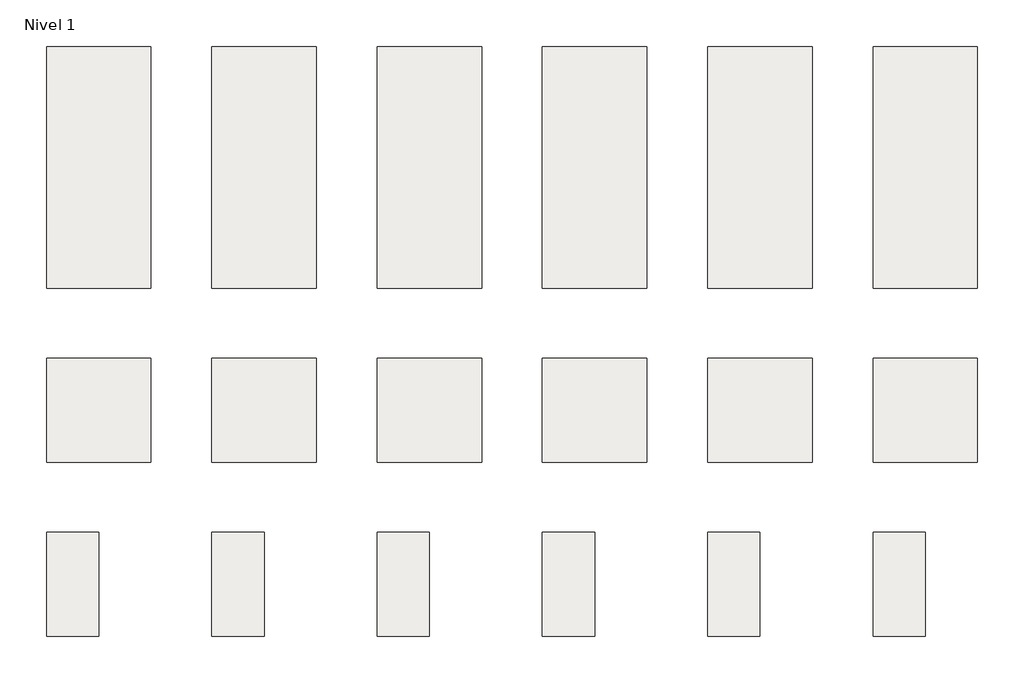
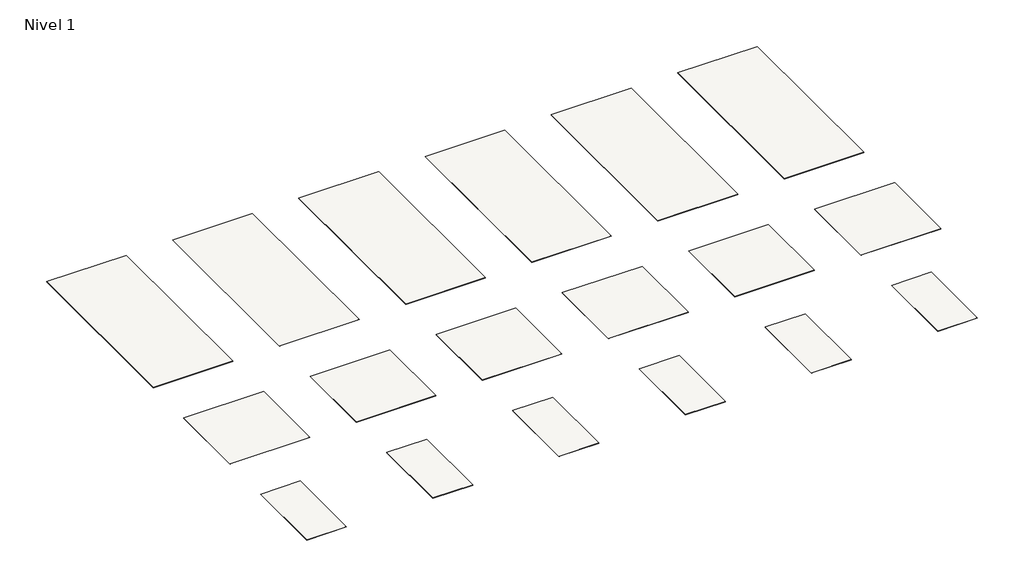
# One storey: 18 slabs.
"""IFC4 building model written with IfcOpenShell, lengths in millimetres."""

from ifc_helpers import new_model, si_unit, frame, origin, place, context, project, spatial, polyline, outline, extrude, element, save

model = new_model("IFC4")

# Units and contexts
model_context = context("Model", 3, world=origin())
ifc_project = project(units=[si_unit("LENGTHUNIT", "METRE", prefix="MILLI")], contexts=[model_context])

# Site, building, storey
site = spatial("IfcSite", under=ifc_project)
building = spatial("IfcBuilding", under=site)
storey = spatial("IfcBuildingStorey", under=building, Name="Nivel 1", Elevation=0.0)

# Slabs
placement = place(None, origin())
element("IfcSlab", 1, ObjectType="Surface Siena 120X278 5,6", at=placement, inside=storey, context=model_context, shape_type="SweptSolid", body=[
    extrude(outline(polyline([(3800.0, 2780.0), (5000.0, 2780.0), (5000.0, 0.0), (3800.0, 0.0), (3800.0, 2780.0)])), frame((0.0, 0.0, -5.6), z_axis=(0.0, 0.0, 1.0), x_axis=(1.0, 0.0, 0.0)), (0.0, 0.0, 1.0), 5.6),
])
element("IfcSlab", 2, ObjectType="Surface Cobalto 120X278 5,6", at=placement, inside=storey, context=model_context, shape_type="SweptSolid", body=[
    extrude(outline(polyline([(5700.0, 2780.0), (6900.0, 2780.0), (6900.0, 0.0), (5700.0, 0.0), (5700.0, 2780.0)])), frame((0.0, 0.0, -5.6), z_axis=(0.0, 0.0, 1.0), x_axis=(1.0, 0.0, 0.0)), (0.0, 0.0, 1.0), 5.6),
])
element("IfcSlab", 3, ObjectType="Surface Siena 120X120 5,6", at=placement, inside=storey, context=model_context, shape_type="SweptSolid", body=[
    extrude(outline(polyline([(3800.0, -800.0), (5000.0, -800.0), (5000.0, -2000.0), (3800.0, -2000.0), (3800.0, -800.0)])), frame((0.0, 0.0, -5.6), z_axis=(0.0, 0.0, 1.0), x_axis=(1.0, 0.0, 0.0)), (0.0, 0.0, 1.0), 5.6),
])
element("IfcSlab", 4, ObjectType="Surface Siena 60X120 5,6", at=placement, inside=storey, context=model_context, shape_type="SweptSolid", body=[
    extrude(outline(polyline([(3800.0, -2800.0), (4400.0, -2800.0), (4400.0, -4000.0), (3800.0, -4000.0), (3800.0, -2800.0)])), frame((0.0, 0.0, -5.6), z_axis=(0.0, 0.0, 1.0), x_axis=(1.0, 0.0, 0.0)), (0.0, 0.0, 1.0), 5.6),
])
element("IfcSlab", 5, ObjectType="Surface Cobalto 120X120 5,6", at=placement, inside=storey, context=model_context, shape_type="SweptSolid", body=[
    extrude(outline(polyline([(5700.0, -800.0), (6900.0, -800.0), (6900.0, -2000.0), (5700.0, -2000.0), (5700.0, -800.0)])), frame((0.0, 0.0, -5.6), z_axis=(0.0, 0.0, 1.0), x_axis=(1.0, 0.0, 0.0)), (0.0, 0.0, 1.0), 5.6),
])
element("IfcSlab", 6, ObjectType="Surface Cobalto 60X120 5,6", at=placement, inside=storey, context=model_context, shape_type="SweptSolid", body=[
    extrude(outline(polyline([(5700.0, -2800.0), (6300.0, -2800.0), (6300.0, -4000.0), (5700.0, -4000.0), (5700.0, -2800.0)])), frame((0.0, 0.0, -5.6), z_axis=(0.0, 0.0, 1.0), x_axis=(1.0, 0.0, 0.0)), (0.0, 0.0, 1.0), 5.6),
])
element("IfcSlab", 7, ObjectType="Surface Arena 120X120 5,6", at=placement, inside=storey, context=model_context, shape_type="SweptSolid", body=[
    extrude(outline(polyline([(9500.0, -800.0), (10700.0, -800.0), (10700.0, -2000.0), (9500.0, -2000.0), (9500.0, -800.0)])), frame((0.0, 0.0, -5.6), z_axis=(0.0, 0.0, 1.0), x_axis=(1.0, 0.0, 0.0)), (0.0, 0.0, 1.0), 5.6),
])
element("IfcSlab", 8, ObjectType="Surface Arena 120X278 5,6", at=placement, inside=storey, context=model_context, shape_type="SweptSolid", body=[
    extrude(outline(polyline([(9500.0, 2780.0), (10700.0, 2780.0), (10700.0, 0.0), (9500.0, 0.0), (9500.0, 2780.0)])), frame((0.0, 0.0, -5.6), z_axis=(0.0, 0.0, 1.0), x_axis=(1.0, 0.0, 0.0)), (0.0, 0.0, 1.0), 5.6),
])
element("IfcSlab", 9, ObjectType="Surface Arena 60X120 5,6", at=placement, inside=storey, context=model_context, shape_type="SweptSolid", body=[
    extrude(outline(polyline([(9500.0, -2800.0), (10100.0, -2800.0), (10100.0, -4000.0), (9500.0, -4000.0), (9500.0, -2800.0)])), frame((0.0, 0.0, -5.6), z_axis=(0.0, 0.0, 1.0), x_axis=(1.0, 0.0, 0.0)), (0.0, 0.0, 1.0), 5.6),
])
element("IfcSlab", 10, ObjectType="Surface Cemento 120X120 5,6", at=placement, inside=storey, context=model_context, shape_type="SweptSolid", body=[
    extrude(outline(polyline([(1900.0, -800.0), (3100.0, -800.0), (3100.0, -2000.0), (1900.0, -2000.0), (1900.0, -800.0)])), frame((0.0, 0.0, -5.6), z_axis=(0.0, 0.0, 1.0), x_axis=(1.0, 0.0, 0.0)), (0.0, 0.0, 1.0), 5.6),
])
element("IfcSlab", 11, ObjectType="Surface Cemento 120X278 5,6", at=placement, inside=storey, context=model_context, shape_type="SweptSolid", body=[
    extrude(outline(polyline([(1900.0, 2780.0), (3100.0, 2780.0), (3100.0, 0.0), (1900.0, 0.0), (1900.0, 2780.0)])), frame((0.0, 0.0, -5.6), z_axis=(0.0, 0.0, 1.0), x_axis=(1.0, 0.0, 0.0)), (0.0, 0.0, 1.0), 5.6),
])
element("IfcSlab", 12, ObjectType="Surface Cemento 60X120 5,6", at=placement, inside=storey, context=model_context, shape_type="SweptSolid", body=[
    extrude(outline(polyline([(1900.0, -2800.0), (2500.0, -2800.0), (2500.0, -4000.0), (1900.0, -4000.0), (1900.0, -2800.0)])), frame((0.0, 0.0, -5.6), z_axis=(0.0, 0.0, 1.0), x_axis=(1.0, 0.0, 0.0)), (0.0, 0.0, 1.0), 5.6),
])
element("IfcSlab", 13, ObjectType="Surface Marfil 120X120 5,6", at=placement, inside=storey, context=model_context, shape_type="SweptSolid", body=[
    extrude(outline(polyline([(0.0, -800.0), (1200.0, -800.0), (1200.0, -2000.0), (0.0, -2000.0), (0.0, -800.0)])), frame((0.0, 0.0, -5.6), z_axis=(0.0, 0.0, 1.0), x_axis=(1.0, 0.0, 0.0)), (0.0, 0.0, 1.0), 5.6),
])
element("IfcSlab", 14, ObjectType="Surface Marfil 120X278 5,6", at=placement, inside=storey, context=model_context, shape_type="SweptSolid", body=[
    extrude(outline(polyline([(0.0, 2780.0), (1200.0, 2780.0), (1200.0, 0.0), (0.0, 0.0), (0.0, 2780.0)])), frame((0.0, 0.0, -5.6), z_axis=(0.0, 0.0, 1.0), x_axis=(1.0, 0.0, 0.0)), (0.0, 0.0, 1.0), 5.6),
])
element("IfcSlab", 15, ObjectType="Surface Marfil 60X120 5,6", at=placement, inside=storey, context=model_context, shape_type="SweptSolid", body=[
    extrude(outline(polyline([(0.0, -2800.0), (600.0, -2800.0), (600.0, -4000.0), (0.0, -4000.0), (0.0, -2800.0)])), frame((0.0, 0.0, -5.6), z_axis=(0.0, 0.0, 1.0), x_axis=(1.0, 0.0, 0.0)), (0.0, 0.0, 1.0), 5.6),
])
element("IfcSlab", 16, ObjectType="Surface Sage 120X120 5,6", at=placement, inside=storey, context=model_context, shape_type="SweptSolid", body=[
    extrude(outline(polyline([(7600.0, -800.0), (8800.0, -800.0), (8800.0, -2000.0), (7600.0, -2000.0), (7600.0, -800.0)])), frame((0.0, 0.0, -5.6), z_axis=(0.0, 0.0, 1.0), x_axis=(1.0, 0.0, 0.0)), (0.0, 0.0, 1.0), 5.6),
])
element("IfcSlab", 17, ObjectType="Surface Sage 120X278 5,6", at=placement, inside=storey, context=model_context, shape_type="SweptSolid", body=[
    extrude(outline(polyline([(7600.0, 2780.0), (8800.0, 2780.0), (8800.0, 0.0), (7600.0, 0.0), (7600.0, 2780.0)])), frame((0.0, 0.0, -5.6), z_axis=(0.0, 0.0, 1.0), x_axis=(1.0, 0.0, 0.0)), (0.0, 0.0, 1.0), 5.6),
])
element("IfcSlab", 18, ObjectType="Surface Sage 60X120 5,6", at=placement, inside=storey, context=model_context, shape_type="SweptSolid", body=[
    extrude(outline(polyline([(7600.0, -2800.0), (8200.0, -2800.0), (8200.0, -4000.0), (7600.0, -4000.0), (7600.0, -2800.0)])), frame((0.0, 0.0, -5.6), z_axis=(0.0, 0.0, 1.0), x_axis=(1.0, 0.0, 0.0)), (0.0, 0.0, 1.0), 5.6),
])

save(model, "model.ifc")
